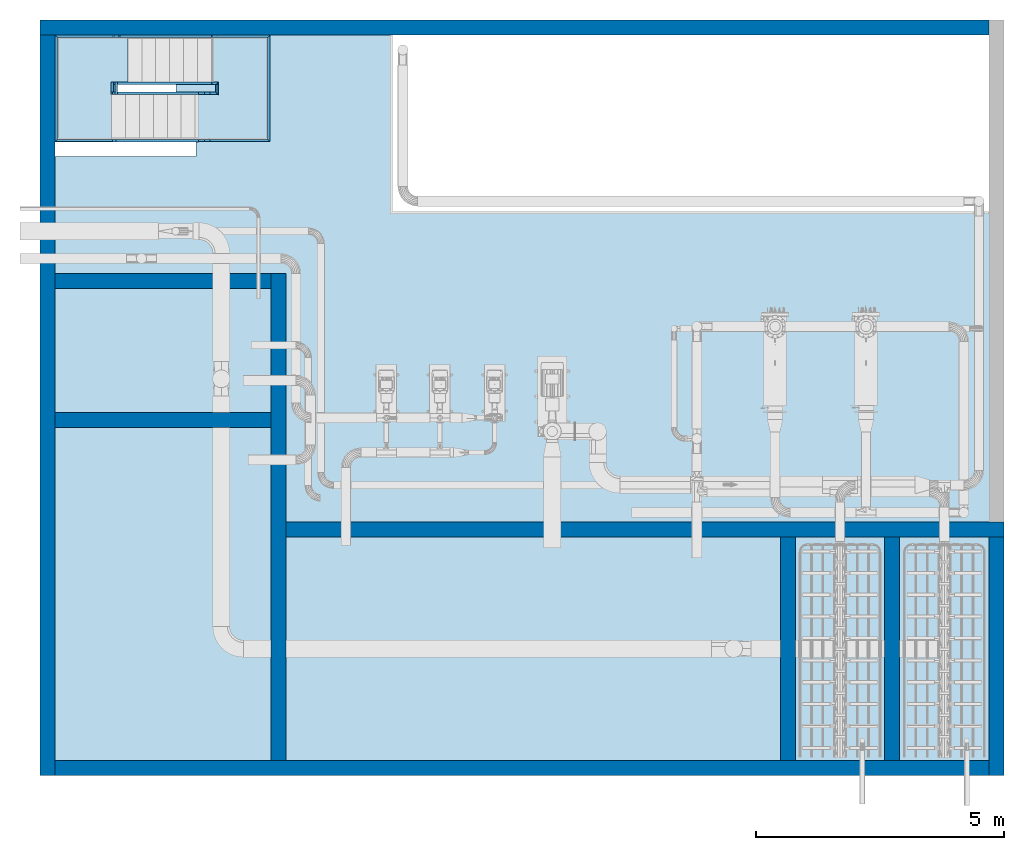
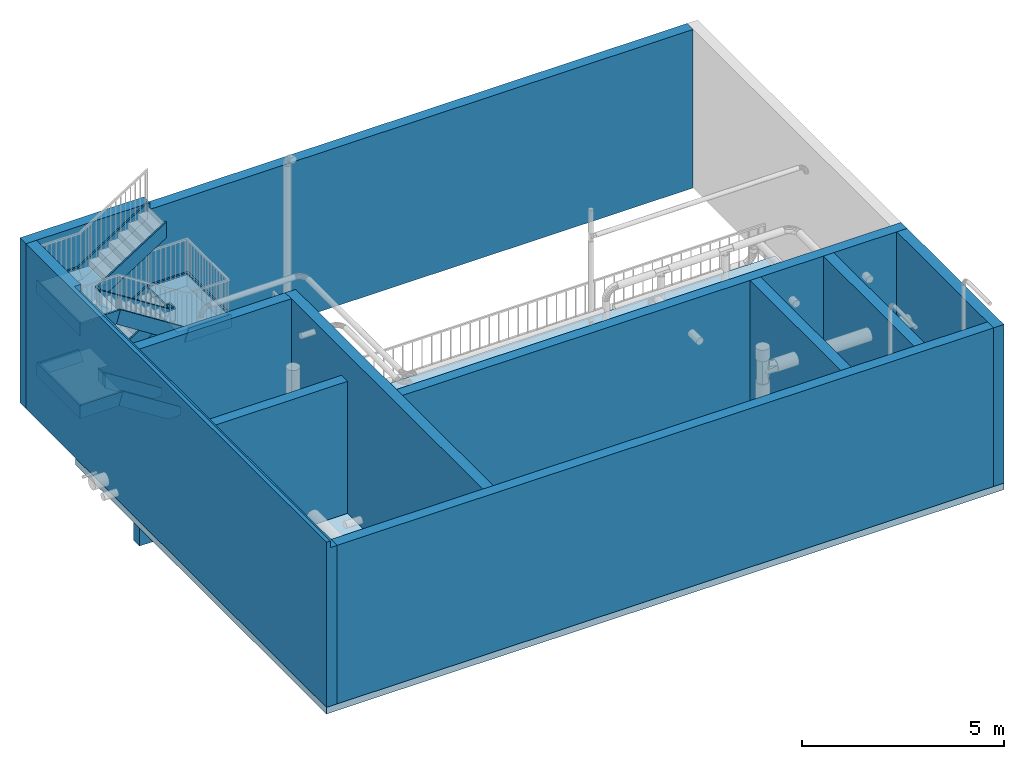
# One storey, part 1 of 28: 22 members, 10 walls, 4 slabs, 1 element without a shape of its own.
"""IFC2X3 building model written with IfcOpenShell, lengths in millimetres."""

from ifc_helpers import new_model, entity, si_unit, converted_unit, direction, frame, frame_2d, origin, place, context, subcontext, project, spatial, polyline, rectangle, outline, extrude, clip, bounded_halfspace, faceted_brep, material, layer, layer_set, layer_usage, type_object, element, aggregate, save


model = new_model("IFC2X3")

# Units and contexts
model_context = context("Model", 3, precision=0.01, world=origin(), true_north=direction((6.123031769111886e-17, 1.0)))
body_context = subcontext(model_context, "Body", "Model", "MODEL_VIEW")
ifc_project = project(units=[si_unit("LENGTHUNIT", "METRE", prefix="MILLI"), converted_unit("PLANEANGLEUNIT", "DEGREE", entity("IfcPlaneAngleMeasure", 0.017453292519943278), si_unit("PLANEANGLEUNIT", "RADIAN"), dimensions=[0, 0, 0, 0, 0, 0, 0]), si_unit("AREAUNIT", "SQUARE_METRE")], contexts=[model_context])

# Site, building, storey
site_placement = place(None, frame((7776.576483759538, 118.3519876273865, 0.0)))
site = spatial("IfcSite", under=ifc_project, at=site_placement, Name="Default", CompositionType="ELEMENT")
building_placement = place(site_placement, origin())
building = spatial("IfcBuilding", under=site, at=building_placement, Name="Bygning (endres i Project Information)", CompositionType="ELEMENT")
storey_placement = place(building_placement, frame((0.0, 0.0, 14000.0)))
storey = spatial("IfcBuildingStorey", under=building, at=storey_placement, Name="Plan U1 - Arbeid", CompositionType="ELEMENT", Elevation=14000.000000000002)

# Stair, members
type_product = type_object("IfcTypeProduct", Name="Assembled Stair:Stairs 1")
stair_placement = place(storey_placement, origin())
stair = element("IfcStair", 1, at=stair_placement, inside=storey, type_object=type_product, Name="Assembled Stair:Stair", ObjectType="Assembled Stair:Stairs 1", ShapeType="NOTDEFINED")
ifc_material_1 = material(Name="<Unnamed>")
member_type = type_object("IfcMemberType", Name="Stringer:Stringer - 50 mm Width", PredefinedType="STRINGER")
member_1_placement = place(stair_placement, origin())
member_1 = element("IfcMember", 2, at=member_1_placement, type_object=member_type, material=ifc_material_1, Name="Assembled Stair:Stair:2492616 Stringer 1", ObjectType="Stringer:Stringer - 50 mm Width", context=body_context, shape_type="SweptSolid", body=[
    extrude(outline(polyline([(-760.6716910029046, -487.4624972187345), (-393.3110486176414, -487.4624972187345), (1015.6747384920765, 411.1253772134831), (898.9796921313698, 811.1253772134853), (-760.6716910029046, -247.32575998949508), (-760.6716910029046, -487.4624972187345)])), frame((15308.329683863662, 32147.742934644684, 487.4624972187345), z_axis=(0.0, 1.0, 0.0), x_axis=(-1.0, 0.0, 0.0)), (0.0, 0.0, 1.0), 50.00000000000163),
])
member_2_placement = place(stair_placement, origin())
member_2 = element("IfcMember", 3, at=member_2_placement, type_object=member_type, material=ifc_material_1, Name="Assembled Stair:Stair:2492616 Stringer 2", ObjectType="Stringer:Stringer - 50 mm Width", context=body_context, shape_type="SweptSolid", body=[
    extrude(outline(polyline([(-725.4721284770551, -465.0137966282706), (-358.1114860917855, -465.0137966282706), (904.5278715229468, 340.2408957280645), (904.5278715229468, 814.663756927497), (-725.4721284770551, -224.87705939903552), (-725.4721284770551, -465.0137966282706)])), frame((15343.529246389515, 33097.74293464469, 465.0137966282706), z_axis=(0.0, 1.0, 0.0), x_axis=(-1.0, 0.0, 0.0)), (0.0, 0.0, 1.0), 50.00000000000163),
])
member_3_placement = place(stair_placement, origin())
member_3 = element("IfcMember", 4, at=member_3_placement, type_object=member_type, material=ifc_material_1, Name="Assembled Stair:Stair:2492616 Stringer 3", ObjectType="Stringer:Stringer - 50 mm Width", context=body_context, shape_type="SweptSolid", body=[
    extrude(outline(polyline([(-1103.9884867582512, -200.0), (1220.683533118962, -200.0), (1103.9884867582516, 200.0), (-1220.6835331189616, 200.0), (-1103.9884867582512, -200.0)])), frame((15412.00028118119, 34247.75730578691, 1723.5878744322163), z_axis=(0.0, 1.0, 0.0), x_axis=(0.8431296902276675, 0.0, 0.5377102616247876)), (0.0, 0.0, 1.0), 50.00000000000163),
])
member_4_placement = place(stair_placement, origin())
member_4 = element("IfcMember", 5, at=member_4_placement, type_object=member_type, material=ifc_material_1, Name="Assembled Stair:Stair:2492616 Stringer 4", ObjectType="Stringer:Stringer - 50 mm Width", context=body_context, shape_type="SweptSolid", body=[
    extrude(outline(polyline([(-789.1876847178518, -234.478099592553), (1457.9771406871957, -234.478099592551), (1341.282094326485, 165.52190040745), (-983.3899255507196, 165.52190040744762), (-1026.68162474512, 137.91239837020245), (-789.1876847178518, -234.478099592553)])), frame((15230.470223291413, 33297.757305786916, 1566.9231571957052), z_axis=(0.0, 1.0, 0.0), x_axis=(0.8431296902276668, 0.0, 0.5377102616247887)), (0.0, 0.0, 1.0), 50.00000000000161),
])
member_5_placement = place(stair_placement, frame((13179.001374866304, 34247.75730578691, 898.5878744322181)))
member_5 = element("IfcMember", 6, at=member_5_placement, type_object=member_type, material=ifc_material_1, Name="Assembled Stair:Stair:2492616 Stringer 5", ObjectType="Stringer:Stringer - 50 mm Width", context=body_context, shape_type="Brep", body=[
    faceted_brep([(1194.651383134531, 0.0, 400.0), (1194.651383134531, 50.0, 400.0), (0.0, 50.0, 400.0), (50.0, 0.0, 400.0), (1311.3464294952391, 0.0, 0.0), (50.0, 0.0, 0.0), (1311.3464294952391, 50.0, 0.0), (0.0, 50.0, 0.0)], [[[0, 1, 2, 3]], [[4, 0, 3, 5]], [[6, 4, 5, 7]], [[1, 6, 7, 2]], [[1, 0, 4, 6]], [[2, 7, 5, 3]]]),
])
member_6_placement = place(stair_placement, origin())
member_6 = element("IfcMember", 7, at=member_6_placement, type_object=member_type, material=ifc_material_1, Name="Assembled Stair:Stair:2492616 Stringer 6", ObjectType="Stringer:Stringer - 50 mm Width", context=body_context, shape_type="SweptSolid", body=[
    extrude(outline(polyline([(-1075.0071855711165, -25.0), (1075.0071855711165, -25.0), (1025.0071855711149, 25.0), (-1025.0071855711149, 25.0), (-1075.0071855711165, -25.0)])), frame((13204.001374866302, 33222.7501202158, 898.5878744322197), z_axis=(0.0, 0.0, 1.0), x_axis=(0.0, -1.0, 0.0)), (0.0, 0.0, 1.0), 400.0),
])
member_7_placement = place(stair_placement, frame((13179.001374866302, 32147.742934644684, 898.5878744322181)))
member_7 = element("IfcMember", 8, at=member_7_placement, type_object=member_type, material=ifc_material_1, Name="Assembled Stair:Stair:2492616 Stringer 7", ObjectType="Stringer:Stringer - 50 mm Width", context=body_context, shape_type="Brep", body=[
    faceted_brep([(50.0, 50.0, 400.0), (0.0, 0.0, 400.0), (1230.3486168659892, 0.0, 400.0), (1230.3486168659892, 50.0, 400.0), (50.0, 50.0, 0.0), (1113.653570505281, 50.0, 0.0), (0.0, 0.0, 0.0), (1113.653570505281, 0.0, 0.0)], [[[0, 1, 2, 3]], [[4, 0, 3, 5]], [[6, 4, 5, 7]], [[1, 6, 7, 2]], [[1, 0, 4, 6]], [[2, 7, 5, 3]]]),
])
member_8_placement = place(stair_placement, origin())
member_8 = element("IfcMember", 9, at=member_8_placement, type_object=member_type, material=ifc_material_1, Name="Assembled Stair:Stair:2492616 Stringer 8", ObjectType="Stringer:Stringer - 50 mm Width", context=body_context, shape_type="SweptSolid", body=[
    extrude(rectangle(XDim=250.01437114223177, YDim=49.99999999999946, at=frame_2d((0.0, -1.0835776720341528e-12), x_axis=(1.0, 0.0))), frame((14414.001374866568, 33222.7501202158, 898.5878744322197), z_axis=(0.0, 0.0, 1.0), x_axis=(0.0, 1.0, 0.0)), (0.0, 0.0, 1.0), 400.0),
])
member_9_placement = place(stair_placement, origin())
member_9 = element("IfcMember", 10, at=member_9_placement, type_object=member_type, material=ifc_material_1, Name="Assembled Stair:Stair:2492616 Stringer 10", ObjectType="Stringer:Stringer - 50 mm Width", context=body_context, shape_type="SweptSolid", body=[
    extrude(outline(polyline([(-1220.6835331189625, -200.0), (1103.9884867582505, -200.0), (1220.6835331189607, 200.0), (-1103.9884867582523, 200.0), (-1220.6835331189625, -200.0)])), frame((15260.080586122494, 32147.963713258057, 2973.587874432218), z_axis=(0.0, 1.0, 0.0), x_axis=(-0.8431296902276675, 0.0, 0.5377102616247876)), (0.0, 0.0, 1.0), 50.00000000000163),
])
member_10_placement = place(stair_placement, origin())
member_10 = element("IfcMember", 11, at=member_10_placement, type_object=member_type, material=ifc_material_1, Name="Assembled Stair:Stair:2492616 Stringer 11", ObjectType="Stringer:Stringer - 50 mm Width", context=body_context, shape_type="SweptSolid", body=[
    extrude(outline(polyline([(-1451.1104961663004, -236.29767832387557), (775.9866038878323, -236.29767832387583), (1019.282772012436, 145.1907132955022), (990.2565700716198, 163.70232167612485), (-1334.4154498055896, 163.70232167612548), (-1451.1104961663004, -236.29767832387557)])), frame((15085.318406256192, 33097.96371325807, 3128.0944672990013), z_axis=(0.0, 1.0, 0.0), x_axis=(-0.8431296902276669, 0.0, 0.5377102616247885)), (0.0, 0.0, 1.0), 50.00000000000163),
])
member_11_placement = place(stair_placement, frame((16181.733062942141, 32147.96371325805, 2148.587874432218)))
member_11 = element("IfcMember", 12, at=member_11_placement, type_object=member_type, material=ifc_material_1, Name="Assembled Stair:Stair:2492616 Stringer 12", ObjectType="Stringer:Stringer - 50 mm Width", context=body_context, shape_type="Brep", body=[
    faceted_brep([(116.69504636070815, 50.0, 400.0), (116.69504636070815, 0.0, 400.0), (1327.2683119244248, 0.0, 400.0), (1277.2683119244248, 50.0, 400.0), (0.0, 50.0, 0.0), (1277.2683119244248, 50.0, 0.0), (0.0, 0.0, 0.0), (1327.2683119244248, 0.0, 0.0)], [[[0, 1, 2, 3]], [[4, 0, 3, 5]], [[6, 4, 5, 7]], [[1, 6, 7, 2]], [[1, 0, 4, 6]], [[2, 7, 5, 3]]]),
])
member_12_placement = place(stair_placement, origin())
member_12 = element("IfcMember", 13, at=member_12_placement, type_object=member_type, material=ifc_material_1, Name="Assembled Stair:Stair:2492616 Stringer 13", ObjectType="Stringer:Stringer - 50 mm Width", context=body_context, shape_type="SweptSolid", body=[
    extrude(outline(polyline([(-1074.8967962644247, -25.0), (1074.8967962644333, -25.0), (1024.8967962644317, 25.0), (-1024.896796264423, 25.0), (-1074.8967962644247, -25.0)])), frame((17484.001374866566, 33222.86050952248, 2148.5878744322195), z_axis=(0.0, 0.0, 1.0), x_axis=(0.0, 1.0, 0.0)), (0.0, 0.0, 1.0), 400.0),
])
member_13_placement = place(stair_placement, frame((16333.652758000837, 34247.75730578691, 2148.587874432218)))
member_13 = element("IfcMember", 14, at=member_13_placement, type_object=member_type, material=ifc_material_1, Name="Assembled Stair:Stair:2492616 Stringer 14", ObjectType="Stringer:Stringer - 50 mm Width", context=body_context, shape_type="Brep", body=[
    faceted_brep([(1125.3486168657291, 0.0, 400.0), (1175.3486168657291, 50.0, 400.0), (0.0, 50.0, 400.0), (0.0, 0.0, 400.0), (1125.3486168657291, 0.0, 0.0), (116.69504636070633, 0.0, 0.0), (1175.3486168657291, 50.0, 0.0), (116.69504636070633, 50.0, 0.0)], [[[0, 1, 2, 3]], [[4, 0, 3, 5]], [[6, 4, 5, 7]], [[1, 6, 7, 2]], [[1, 0, 4, 6]], [[2, 7, 5, 3]]]),
])
member_14_placement = place(stair_placement, frame((16333.652758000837, 33297.7573057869, 2148.587874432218)))
member_14 = element("IfcMember", 15, at=member_14_placement, type_object=member_type, material=ifc_material_1, Name="Assembled Stair:Stair:2492616 Stringer 15", ObjectType="Stringer:Stringer - 50 mm Width", context=body_context, shape_type="Brep", body=[
    faceted_brep([(0.0, 50.0, 400.0), (0.0, 0.0, 400.0), (75.34861686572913, 0.0, 400.0), (125.34861686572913, 50.0, 400.0), (116.69504636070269, 50.0, 0.0), (125.34861686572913, 50.0, 0.0), (116.69504636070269, 0.0, 0.0), (75.34861686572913, 0.0, 0.0)], [[[0, 1, 2, 3]], [[4, 0, 3, 5]], [[6, 4, 5, 7]], [[1, 6, 7, 2]], [[1, 0, 4, 6]], [[2, 7, 5, 3]]]),
])
member_15_placement = place(stair_placement, origin())
member_15 = element("IfcMember", 16, at=member_15_placement, type_object=member_type, material=ifc_material_1, Name="Assembled Stair:Stair:2492616 Stringer 16", ObjectType="Stringer:Stringer - 50 mm Width", context=body_context, shape_type="SweptSolid", body=[
    extrude(outline(polyline([(-74.89679626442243, -25.0), (74.89679626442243, -25.0), (124.89679626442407, 25.0), (-124.89679626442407, 25.0), (-74.89679626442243, -25.0)])), frame((16434.001374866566, 33222.860509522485, 2148.5878744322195), z_axis=(0.0, 0.0, 1.0), x_axis=(0.0, -1.0, 0.0)), (0.0, 0.0, 1.0), 400.0),
])
member_16_placement = place(stair_placement, origin())
member_16 = element("IfcMember", 17, at=member_16_placement, type_object=member_type, material=ifc_material_1, Name="Assembled Stair:Stair:2492616 Stringer 17", ObjectType="Stringer:Stringer - 50 mm Width", context=body_context, shape_type="SweptSolid", body=[
    extrude(outline(polyline([(-1081.454049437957, -200.0), (1267.3525930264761, -200.0), (1012.2505522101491, 200.0), (-1198.1490957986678, 200.0), (-1081.454049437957, -200.0)])), frame((15363.000828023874, 34247.75730578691, 4211.470876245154), z_axis=(0.0, 1.0, 0.0), x_axis=(0.8431296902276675, 0.0, 0.5377102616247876)), (0.0, 0.0, 1.0), 50.00000000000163),
])
member_17_placement = place(stair_placement, origin())
member_17 = element("IfcMember", 18, at=member_17_placement, type_object=member_type, material=ifc_material_1, Name="Assembled Stair:Stair:2492616 Stringer 18", ObjectType="Stringer:Stringer - 50 mm Width", context=body_context, shape_type="SweptSolid", body=[
    extrude(outline(polyline([(-814.0722230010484, -228.56328671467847), (1522.4603684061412, -228.5632867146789), (1267.3583275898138, 171.4367132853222), (-943.0413204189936, 171.43671328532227), (-1032.705152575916, 114.25314685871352), (-814.0722230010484, -228.56328671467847)])), frame((15163.270660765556, 33297.757305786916, 4050.2142525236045), z_axis=(0.0, 1.0, 0.0), x_axis=(0.8431296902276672, 0.0, 0.5377102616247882)), (0.0, 0.0, 1.0), 50.00000000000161),
])
member_18_placement = place(stair_placement, frame((13174.001374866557, 34247.75730578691, 3398.5878744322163)))
member_18 = element("IfcMember", 19, at=member_18_placement, type_object=member_type, material=ifc_material_1, Name="Assembled Stair:Stair:2492616 Stringer 19", ObjectType="Stringer:Stringer - 50 mm Width", context=body_context, shape_type="Brep", body=[
    faceted_brep([(1169.6513831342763, 0.0, 400.0), (1169.6513831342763, 50.0, 400.0), (0.0, 50.0, 400.0), (50.0, 0.0, 400.0), (1286.3464294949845, 0.0, 0.0), (50.0, 0.0, 0.0), (1286.3464294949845, 50.0, 0.0), (0.0, 50.0, 0.0)], [[[0, 1, 2, 3]], [[4, 0, 3, 5]], [[6, 4, 5, 7]], [[1, 6, 7, 2]], [[1, 0, 4, 6]], [[2, 7, 5, 3]]]),
])
member_19_placement = place(stair_placement, origin())
member_19 = element("IfcMember", 20, at=member_19_placement, type_object=member_type, material=ifc_material_1, Name="Assembled Stair:Stair:2492616 Stringer 20", ObjectType="Stringer:Stringer - 50 mm Width", context=body_context, shape_type="SweptSolid", body=[
    extrude(outline(polyline([(-1074.896796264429, -25.0), (1074.896796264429, -25.0), (1024.8967962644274, 25.0), (-1024.8967962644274, 25.0), (-1074.896796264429, -25.0)])), frame((13199.001374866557, 33222.860509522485, 3398.587874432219), z_axis=(0.0, 0.0, 1.0), x_axis=(0.0, -1.0, 0.0)), (0.0, 0.0, 1.0), 400.0),
])
member_20_placement = place(stair_placement, frame((13174.001374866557, 32147.963713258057, 3398.5878744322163)))
member_20 = element("IfcMember", 21, at=member_20_placement, type_object=member_type, material=ifc_material_1, Name="Assembled Stair:Stair:2492616 Stringer 21", ObjectType="Stringer:Stringer - 50 mm Width", context=body_context, shape_type="Brep", body=[
    faceted_brep([(50.0, 50.0, 400.0), (0.0, 0.0, 400.0), (1164.4267344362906, 0.0, 400.0), (1164.4267344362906, 50.0, 400.0), (50.0, 50.0, 0.0), (1047.7316880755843, 50.0, 0.0), (0.0, 0.0, 0.0), (1047.7316880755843, 0.0, 0.0)], [[[0, 1, 2, 3]], [[4, 0, 3, 5]], [[6, 4, 5, 7]], [[1, 6, 7, 2]], [[1, 0, 4, 6]], [[2, 7, 5, 3]]]),
])
member_21_placement = place(stair_placement, origin())
member_21 = element("IfcMember", 22, at=member_21_placement, type_object=member_type, material=ifc_material_1, Name="Assembled Stair:Stair:2492616 Stringer 23", ObjectType="Stringer:Stringer - 50 mm Width", context=body_context, shape_type="SweptSolid", body=[
    extrude(rectangle(XDim=199.79359252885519, YDim=49.99999999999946, at=frame_2d((-2.1671553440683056e-12, -1.0835776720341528e-12), x_axis=(1.0, 0.0))), frame((14329.001374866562, 33247.86050952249, 3398.587874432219), z_axis=(0.0, 0.0, 1.0), x_axis=(0.0, 1.0, 0.0)), (0.0, 0.0, 1.0), 400.0),
])
member_22_placement = place(stair_placement, frame((16181.733062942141, 33097.96371325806, 2148.587874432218)))
member_22 = element("IfcMember", 23, at=member_22_placement, type_object=member_type, material=ifc_material_1, Name="Assembled Stair:Stair:2492616 Stringer 25", ObjectType="Stringer:Stringer - 50 mm Width", context=body_context, shape_type="Brep", body=[
    faceted_brep([(277.2683119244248, 0.0, 400.0), (227.26831192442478, 50.0, 400.0), (116.69504636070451, 50.0, 400.0), (116.69504636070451, 0.0, 400.0), (277.2683119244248, 0.0, 0.0), (0.0, 0.0, 0.0), (227.26831192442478, 50.0, 0.0), (0.0, 50.0, 0.0)], [[[0, 1, 2, 3]], [[4, 0, 3, 5]], [[6, 4, 5, 7]], [[1, 6, 7, 2]], [[1, 0, 4, 6]], [[2, 7, 5, 3]]]),
])

# Slab
ifc_material_2 = material(Name="Default Floor")
ifc_layer_1 = layer(ifc_material_2, 200.0)
ifc_layer_set_1 = layer_set([ifc_layer_1], Name="Floor:Generic 200mm")
ifc_layer_usage_1 = layer_usage(ifc_layer_set_1, "AXIS3", "POSITIVE", 0.0)
slab_type_1 = type_object("IfcSlabType", Name="Floor:Generic 200mm", PredefinedType="FLOOR", material=ifc_layer_set_1)
slab_1_placement = place(storey_placement, origin())
element("IfcSlab", 24, at=slab_1_placement, inside=storey, type_object=slab_type_1, material=ifc_layer_usage_1, Name="Floor:Generic 200mm", ObjectType="Floor:Generic 200mm", PredefinedType="FLOOR", context=body_context, shape_type="SweptSolid", body=[
    extrude(outline(polyline([(-10480.109038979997, -6476.0), (1970.4361559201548, -6476.0), (1970.4361559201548, -3336.0), (2919.8909610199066, -3336.0), (2919.8909610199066, -3736.0), (4719.890961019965, -3736.0), (4719.890961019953, 624.0), (869.8909610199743, 624.0), (869.8909610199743, 12924.0), (-10480.109038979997, 12924.0), (-10480.109038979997, -6476.0)])), frame((19350.001374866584, 29877.866344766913, 0.0), z_axis=(0.0, 0.0, -1.0), x_axis=(0.0, 1.0, 0.0)), (0.0, 0.0, 1.0), 200.0),
])

slab_type_2 = type_object("IfcSlabType", Name="Non-Monolithic Landing:Non-Monolithic Landing", PredefinedType="LANDING")
slab_2_placement = place(stair_placement, origin())
slab_2 = element("IfcSlab", 25, at=slab_2_placement, type_object=slab_type_2, material=ifc_material_1, Name="Assembled Stair:Stair:2492616 Landing 1", ObjectType="Non-Monolithic Landing:Non-Monolithic Landing", PredefinedType="LANDING", context=body_context, shape_type="SweptSolid", body=[
    extrude(outline(polyline([(-1042.865354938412, 250.0), (-1042.865354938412, -910.0), (1007.1490162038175, -910.0), (1007.1490162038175, 535.0), (107.14901620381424, 535.0), (107.14901620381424, 250.0), (-142.86535493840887, 250.0), (-1042.865354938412, 250.0)])), frame((14139.001374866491, 33240.6082895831, 1200.0), z_axis=(0.0, 0.0, -1.0), x_axis=(0.0, 1.0, 0.0)), (0.0, 0.0, -1.0), 49.99999999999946),
])

slab_3_placement = place(stair_placement, origin())
slab_3 = element("IfcSlab", 26, at=slab_3_placement, type_object=slab_type_2, material=ifc_material_1, Name="Assembled Stair:Stair:2492616 Landing 2", ObjectType="Non-Monolithic Landing:Non-Monolithic Landing", PredefinedType="LANDING", context=body_context, shape_type="SweptSolid", body=[
    extrude(outline(polyline([(-1024.8967962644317, -213.5195293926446), (-124.8967962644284, -213.5195293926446), (-124.8967962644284, -108.51952939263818), (124.89679626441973, -108.51952939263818), (124.89679626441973, -569.4414118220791), (1024.896796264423, -569.4414118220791), (1024.896796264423, 891.4804706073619), (-1024.8967962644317, 891.4804706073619), (-1024.8967962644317, -213.5195293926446)])), frame((16567.520904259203, 33222.86050952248, 2450.0), z_axis=(0.0, 0.0, 1.0), x_axis=(0.0, -1.0, 0.0)), (0.0, 0.0, 1.0), 49.99999999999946),
])

slab_4_placement = place(stair_placement, origin())
slab_4 = element("IfcSlab", 27, at=slab_4_placement, type_object=slab_type_2, material=ifc_material_1, Name="Assembled Stair:Stair:2492616 Landing 3", ObjectType="Non-Monolithic Landing:Non-Monolithic Landing", PredefinedType="LANDING", context=body_context, shape_type="SweptSolid", body=[
    extrude(outline(polyline([(-1024.896796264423, -195.5585881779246), (-124.89679626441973, -195.5585881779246), (-124.89679626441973, -181.48047060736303), (124.8967962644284, -181.48047060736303), (124.8967962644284, -521.4804706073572), (1024.8967962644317, -521.4804706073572), (1024.8967962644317, 898.5195293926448), (-1024.896796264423, 898.5195293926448), (-1024.896796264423, -195.5585881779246)])), frame((14122.520904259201, 33222.860509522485, 3700.0), z_axis=(0.0, 0.0, 1.0), x_axis=(0.0, 1.0, 0.0)), (0.0, 0.0, 1.0), 49.99999999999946),
])

aggregate(stair, [slab_2, slab_3, slab_4, member_1, member_2, member_3, member_4, member_5, member_6, member_7, member_8, member_9, member_10, member_11, member_12, member_13, member_14, member_15, member_16, member_17, member_18, member_19, member_20, member_21, member_22])

# Walls
ifc_material_3 = material(Name="Default Wall")
ifc_layer_2 = layer(ifc_material_3, 300.0)
ifc_layer_set_2 = layer_set([ifc_layer_2], Name="Basic Wall:Generic - 300mm")
ifc_layer_usage_2 = layer_usage(ifc_layer_set_2, "AXIS2", "NEGATIVE", 149.99999999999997)
wall_type = type_object("IfcWallType", Name="Basic Wall:Generic - 300mm", PredefinedType="STANDARD", material=ifc_layer_set_2)
wall_1_placement = place(storey_placement, frame((31974.001374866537, 19547.75730578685, 0.0), z_axis=(0.0, 0.0, 1.0), x_axis=(-1.0, 0.0, 0.0)))
element("IfcWallStandardCase", 28, at=wall_1_placement, inside=storey, type_object=wall_type, material=ifc_layer_usage_2, Name="Basic Wall:Generic - 300mm", ObjectType="Basic Wall:Generic - 300mm", context=body_context, shape_type="Clipping", body=[
    clip(extrude(rectangle(XDim=18800.0, YDim=300.00000000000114, at=frame_2d((9400.0, 4.973799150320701e-13), x_axis=(-1.0, 0.0))), origin(), (0.0, 0.0, 1.0), 4800.0), bounded_halfspace(frame((0.0, -150.0, 4800.0), z_axis=(0.0, 0.0, -1.0), x_axis=(-1.0, 0.0, 0.0)), True, frame((0.0, -150.0, 4800.0)), polyline([(0.0, 0.0), (1800.0, 0.0), (2100.0, 0.0), (3900.0, 0.0), (4200.0, 0.0), (14150.0, 0.0), (14450.0, 0.0), (18800.0, 0.0), (18800.0, 300.0), (0.0, 300.0), (0.0, 0.0)]))),
])
ifc_layer_usage_3 = layer_usage(ifc_layer_set_2, "AXIS2", "NEGATIVE", 149.99999999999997)
wall_2_placement = place(storey_placement, frame((12874.001374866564, 34447.757305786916, 0.0)))
element("IfcWallStandardCase", 29, at=wall_2_placement, inside=storey, type_object=wall_type, material=ifc_layer_usage_3, Name="Basic Wall:Generic - 300mm", ObjectType="Basic Wall:Generic - 300mm", context=body_context, shape_type="Clipping", body=[
    clip(clip(clip(extrude(rectangle(XDim=19100.0, YDim=300.00000000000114, at=frame_2d((9550.0, 1.1368683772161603e-12), x_axis=(-1.0, 0.0))), origin(), (0.0, 0.0, 1.0), 4999.999999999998), bounded_halfspace(frame((3550.0, -150.0, 4800.0), z_axis=(0.0, 0.0, -1.0), x_axis=(1.0, 0.0, 0.0)), True, frame((3550.0, -150.0, 4800.0)), polyline([(0.0, 0.0), (15550.0, 0.0), (15550.0, 300.0), (14510.0, 300.0), (3360.0, 300.0), (1200.0, 300.0), (0.0, 300.0), (0.0, 0.0)]))), bounded_halfspace(frame((0.0, -150.0, 5000.0), z_axis=(0.0, 0.0, -1.0), x_axis=(0.0, -1.0, 0.0)), True, frame((0.0, -150.0, 5000.0)), polyline([(0.0, 0.0), (300.0, 0.0), (3550.0, 0.0), (3550.0, 300.0), (0.0, 300.0), (0.0, 0.0)]))), bounded_halfspace(frame((3550.0, -150.0, 4800.0), z_axis=(0.0, 0.0, -1.0), x_axis=(1.0, 0.0, 0.0)), True, frame((3550.0, -150.0, 4800.0)), polyline([(0.0, 0.0), (15550.0, 0.0), (15550.0, 300.0), (14510.0, 300.0), (3360.0, 300.0), (1200.0, 300.0), (0.0, 300.0), (0.0, 0.0)]))),
])
ifc_layer_usage_4 = layer_usage(ifc_layer_set_2, "AXIS2", "NEGATIVE", 149.99999999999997)
wall_3_placement = place(storey_placement, frame((17824.001374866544, 24347.7573057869, 0.0)))
element("IfcWallStandardCase", 30, at=wall_3_placement, inside=storey, type_object=wall_type, material=ifc_layer_usage_4, Name="Basic Wall:Generic - 300mm", ObjectType="Basic Wall:Generic - 300mm", context=body_context, shape_type="Clipping", body=[
    clip(extrude(rectangle(XDim=14450.000000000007, YDim=300.00000000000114, at=frame_2d((7225.000000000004, -2.0179413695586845e-12), x_axis=(-1.0, 0.0))), origin(), (0.0, 0.0, 1.0), 4800.0), bounded_halfspace(frame((0.0, -150.0, 4800.0), z_axis=(0.0, 0.0, -1.0), x_axis=(1.0, 0.0, 0.0)), True, frame((0.0, -150.0, 4800.0)), polyline([(0.0, 0.0), (9950.0, 0.0), (10250.0, 0.0), (12050.0, 0.0), (12350.0, 0.0), (14150.0, 0.0), (14450.0, 0.0), (14450.0, 300.0), (14150.0, 300.0), (0.0, 300.0), (0.0, 0.0)]))),
])
ifc_layer_usage_5 = layer_usage(ifc_layer_set_2, "AXIS2", "NEGATIVE", 149.99999999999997)
wall_4_placement = place(storey_placement, frame((27924.00137486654, 19697.757305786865, 0.0), z_axis=(0.0, 0.0, 1.0), x_axis=(0.0, 1.0, 0.0)))
element("IfcWallStandardCase", 31, at=wall_4_placement, inside=storey, type_object=wall_type, material=ifc_layer_usage_5, Name="Basic Wall:Generic - 300mm", ObjectType="Basic Wall:Generic - 300mm", context=body_context, shape_type="Clipping", body=[
    clip(extrude(rectangle(XDim=4499.999999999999, YDim=300.00000000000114, at=frame_2d((2249.9999999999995, -6.963318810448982e-13), x_axis=(-1.0, 0.0))), origin(), (0.0, 0.0, 1.0), 4800.0), bounded_halfspace(frame((0.0, -150.0, 4800.0), z_axis=(0.0, 0.0, -1.0), x_axis=(0.0, -1.0, 0.0)), True, frame((0.0, -150.0, 4800.0)), polyline([(0.0, 0.0), (4500.0, 0.0), (4500.0, 300.0), (0.0, 300.0), (0.0, 0.0)]))),
])
ifc_layer_usage_6 = layer_usage(ifc_layer_set_2, "AXIS2", "NEGATIVE", 149.99999999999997)
wall_5_placement = place(storey_placement, frame((30024.001374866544, 19697.757305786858, 0.0), z_axis=(0.0, 0.0, 1.0), x_axis=(0.0, 1.0, 0.0)))
element("IfcWallStandardCase", 32, at=wall_5_placement, inside=storey, type_object=wall_type, material=ifc_layer_usage_6, Name="Basic Wall:Generic - 300mm", ObjectType="Basic Wall:Generic - 300mm", context=body_context, shape_type="Clipping", body=[
    clip(extrude(rectangle(XDim=4499.999999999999, YDim=300.00000000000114, at=frame_2d((2249.9999999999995, -6.963318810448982e-13), x_axis=(-1.0, 0.0))), origin(), (0.0, 0.0, 1.0), 4800.0), bounded_halfspace(frame((0.0, -150.0, 4800.0), z_axis=(0.0, 0.0, -1.0), x_axis=(0.0, -1.0, 0.0)), True, frame((0.0, -150.0, 4800.0)), polyline([(0.0, 0.0), (4500.0, 0.0), (4500.0, 300.0), (0.0, 300.0), (0.0, 0.0)]))),
])
ifc_layer_usage_7 = layer_usage(ifc_layer_set_2, "AXIS2", "NEGATIVE", 149.99999999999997)
wall_6_placement = place(storey_placement, frame((13024.001374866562, 34297.757305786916, 0.0), z_axis=(0.0, 0.0, 1.0), x_axis=(0.0, -1.0, 0.0)))
element("IfcWallStandardCase", 33, at=wall_6_placement, inside=storey, type_object=wall_type, material=ifc_layer_usage_7, Name="Basic Wall:Generic - 300mm", ObjectType="Basic Wall:Generic - 300mm", context=body_context, shape_type="Clipping", body=[
    clip(clip(clip(clip(extrude(rectangle(XDim=14900.000000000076, YDim=300.00000000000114, at=frame_2d((7450.000000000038, 1.8474111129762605e-13), x_axis=(-1.0, 0.0))), origin(), (0.0, 0.0, 1.0), 4999.999999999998), bounded_halfspace(frame((14900.0, -40.0, 4800.0), z_axis=(0.0, 0.0, -1.0), x_axis=(0.0, 1.0, 0.0)), True, frame((14900.0, -40.0, 4800.0)), polyline([(0.0, 0.0), (0.0, 190.0), (-300.0, 190.0), (-9800.0, 190.0), (-10100.0, 190.0), (-12700.0, 190.0), (-12700.0, 0.0), (0.0, 0.0)]))), bounded_halfspace(frame((14900.0, -150.0, 5000.0), z_axis=(0.0, 0.0, -1.0), x_axis=(0.0, 1.0, 0.0)), True, frame((14900.0, -150.0, 5000.0)), polyline([(0.0, 0.0), (0.0, 110.0), (-12700.0, 110.0), (-14900.0, 110.0), (-14900.0, 0.0), (0.0, 0.0)]))), bounded_halfspace(frame((2200.0, 150.0, 5000.0), z_axis=(0.0, 0.0, -1.0), x_axis=(0.0, 1.0, 0.0)), True, frame((2200.0, 150.0, 5000.0)), polyline([(0.0, 0.0), (-2200.0, 0.0), (-2200.0, -190.0), (0.0, -190.0), (0.0, 0.0)]))), bounded_halfspace(frame((14900.0, -40.0, 4800.0), z_axis=(0.0, 0.0, -1.0), x_axis=(0.0, 1.0, 0.0)), True, frame((14900.0, -40.0, 4800.0)), polyline([(0.0, 0.0), (0.0, 190.0), (-300.0, 190.0), (-9800.0, 190.0), (-10100.0, 190.0), (-12700.0, 190.0), (-12700.0, 0.0), (0.0, 0.0)]))),
])
ifc_layer_usage_8 = layer_usage(ifc_layer_set_2, "AXIS2", "NEGATIVE", 149.99999999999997)
wall_7_placement = place(storey_placement, frame((32124.001374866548, 24197.75730578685, 0.0), z_axis=(0.0, 0.0, 1.0), x_axis=(0.0, -1.0, 0.0)))
element("IfcWallStandardCase", 34, at=wall_7_placement, inside=storey, type_object=wall_type, material=ifc_layer_usage_8, Name="Basic Wall:Generic - 300mm", ObjectType="Basic Wall:Generic - 300mm", context=body_context, shape_type="Clipping", body=[
    clip(extrude(rectangle(XDim=4800.000000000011, YDim=300.0000000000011, at=frame_2d((2400.0000000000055, -3.552713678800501e-13), x_axis=(-1.0, 0.0))), origin(), (0.0, 0.0, 1.0), 4800.0), bounded_halfspace(frame((0.0, -150.0, 4800.0), z_axis=(0.0, 0.0, -1.0), x_axis=(0.0, 1.0, 0.0)), True, frame((0.0, -150.0, 4800.0)), polyline([(0.0, 0.0), (4500.0, 0.0), (4800.0, 0.0), (4800.0, 300.0), (0.0, 300.0), (0.0, 0.0)]))),
])
ifc_layer_usage_9 = layer_usage(ifc_layer_set_2, "AXIS2", "NEGATIVE", 149.99999999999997)
wall_8_placement = place(storey_placement, frame((17674.001374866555, 29497.757305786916, 0.0), z_axis=(0.0, 0.0, 1.0), x_axis=(0.0, -1.0, 0.0)))
element("IfcWallStandardCase", 35, at=wall_8_placement, inside=storey, type_object=wall_type, material=ifc_layer_usage_9, Name="Basic Wall:Generic - 300mm", ObjectType="Basic Wall:Generic - 300mm", context=body_context, shape_type="Clipping", body=[
    clip(extrude(rectangle(XDim=9800.000000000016, YDim=300.00000000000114, at=frame_2d((4900.000000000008, -2.8421709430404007e-13), x_axis=(-1.0, 0.0))), origin(), (0.0, 0.0, 1.0), 4800.0), bounded_halfspace(frame((0.0, -150.0, 4800.0), z_axis=(0.0, 0.0, -1.0), x_axis=(0.0, 1.0, 0.0)), True, frame((0.0, -150.0, 4800.0)), polyline([(0.0, 0.0), (300.0, 0.0), (610.0, 0.0), (1610.0, 0.0), (9800.0, 0.0), (9800.0, 300.0), (5300.0, 300.0), (5000.0, 300.0), (0.0, 300.0), (0.0, 0.0)]))),
])
ifc_layer_usage_10 = layer_usage(ifc_layer_set_2, "AXIS2", "NEGATIVE", 149.99999999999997)
wall_9_placement = place(storey_placement, frame((17524.001374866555, 29347.757305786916, -1167.7205003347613), z_axis=(0.0, 0.0, 1.0), x_axis=(-1.0, 0.0, 0.0)))
element("IfcWallStandardCase", 36, at=wall_9_placement, inside=storey, type_object=wall_type, material=ifc_layer_usage_10, Name="Basic Wall:Generic - 300mm", ObjectType="Basic Wall:Generic - 300mm", context=body_context, shape_type="Clipping", body=[
    clip(extrude(rectangle(XDim=4350.000000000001, YDim=300.00000000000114, at=frame_2d((2175.0000000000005, 4.973799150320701e-13), x_axis=(-1.0, 0.0))), origin(), (0.0, 0.0, 1.0), 5967.720500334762), bounded_halfspace(frame((0.0, -150.0, 5967.72050033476), z_axis=(0.0, 0.0, -1.0), x_axis=(-1.0, 0.0, 0.0)), True, frame((0.0, -150.0, 5967.72050033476)), polyline([(0.0, 0.0), (4350.0, 0.0), (4350.0, 300.0), (0.0, 300.0), (0.0, 0.0)]))),
])
ifc_layer_usage_11 = layer_usage(ifc_layer_set_2, "AXIS2", "NEGATIVE", 149.99999999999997)
wall_10_placement = place(storey_placement, frame((13174.00137486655, 26547.757305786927, 0.0)))
element("IfcWallStandardCase", 37, at=wall_10_placement, inside=storey, type_object=wall_type, material=ifc_layer_usage_11, Name="Basic Wall:Generic - 300mm", ObjectType="Basic Wall:Generic - 300mm", context=body_context, shape_type="SweptSolid", body=[
    extrude(rectangle(XDim=4350.0, YDim=300.0000000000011, at=frame_2d((2175.0, -2.7000623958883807e-13), x_axis=(-1.0, 0.0))), origin(), (0.0, 0.0, 1.0), 4000.0000000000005),
])

save(model, "model.ifc")
